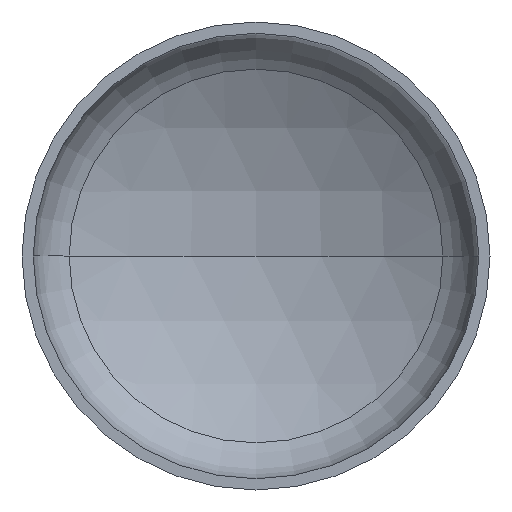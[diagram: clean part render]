
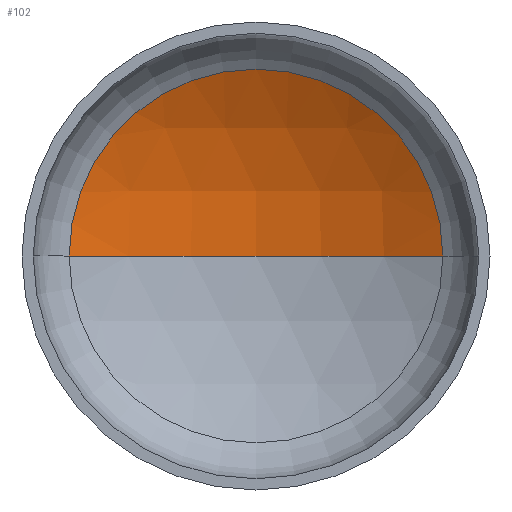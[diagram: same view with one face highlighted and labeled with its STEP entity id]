
A CAD part, front view. The second image highlights one B-rep face of the part: STEP entity #102.
In plain terms, the highlighted spherical face has radius 1360 mm.
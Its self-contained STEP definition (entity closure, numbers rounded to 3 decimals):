
#1 = FACE_OUTER_BOUND ( 'NONE', #9, .T. ) ;
#7 = CARTESIAN_POINT ( 'NONE',  ( 0., -823.205, 0. ) ) ;
#9 = EDGE_LOOP ( 'NONE', ( #100, #117, #72 ) ) ;
#22 = DIRECTION ( 'NONE',  ( -1., 0., 0. ) ) ;
#26 = DIRECTION ( 'NONE',  ( 0., 0., -1. ) ) ;
#27 = AXIS2_PLACEMENT_3D ( 'NONE', #7, #26, #22 ) ;
#28 = DIRECTION ( 'NONE',  ( 1., 0., 0. ) ) ;
#30 = AXIS2_PLACEMENT_3D ( 'NONE', #377, #255, #28 ) ;
#32 = AXIS2_PLACEMENT_3D ( 'NONE', #201, #203, #282 ) ;
#33 = AXIS2_PLACEMENT_3D ( 'NONE', #226, #218, #215 ) ;
#36 = CIRCLE ( 'NONE', #33, 678.764 ) ;
#49 = VERTEX_POINT ( 'NONE', #254 ) ;
#72 = ORIENTED_EDGE ( 'NONE', *, *, #77, .T. ) ;
#77 = EDGE_CURVE ( 'NONE', #383, #49, #36, .T. ) ;
#78 = EDGE_CURVE ( 'NONE', #106, #383, #362, .T. ) ;
#89 = EDGE_CURVE ( 'NONE', #106, #49, #294, .T. ) ;
#100 = ORIENTED_EDGE ( 'NONE', *, *, #89, .F. ) ;
#102 = ADVANCED_FACE ( 'NONE', ( #1 ), #169, .F. ) ;
#106 = VERTEX_POINT ( 'NONE', #220 ) ;
#117 = ORIENTED_EDGE ( 'NONE', *, *, #78, .T. ) ;
#169 = SPHERICAL_SURFACE ( 'NONE', #27, 1360. ) ;
#201 = CARTESIAN_POINT ( 'NONE',  ( 0., -823.205, 0. ) ) ;
#203 = DIRECTION ( 'NONE',  ( 0., 0., -1. ) ) ;
#215 = DIRECTION ( 'NONE',  ( 1., 0., 0. ) ) ;
#218 = DIRECTION ( 'NONE',  ( 0., -1., 0. ) ) ;
#220 = CARTESIAN_POINT ( 'NONE',  ( 0., 536.795, 0. ) ) ;
#226 = CARTESIAN_POINT ( 'NONE',  ( 0., 355.303, 0. ) ) ;
#254 = CARTESIAN_POINT ( 'NONE',  ( -678.764, 355.303, 0. ) ) ;
#255 = DIRECTION ( 'NONE',  ( 0., 0., 1. ) ) ;
#269 = CARTESIAN_POINT ( 'NONE',  ( 678.764, 355.303, 0. ) ) ;
#282 = DIRECTION ( 'NONE',  ( -1., 0., 0. ) ) ;
#294 = CIRCLE ( 'NONE', #30, 1360. ) ;
#362 = CIRCLE ( 'NONE', #32, 1360. ) ;
#377 = CARTESIAN_POINT ( 'NONE',  ( 0., -823.205, 0. ) ) ;
#383 = VERTEX_POINT ( 'NONE', #269 ) ;
